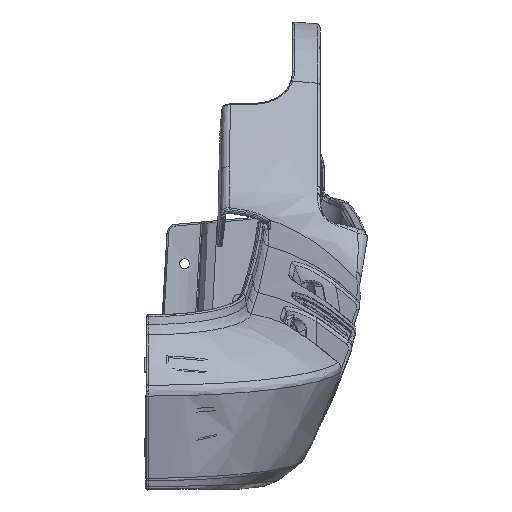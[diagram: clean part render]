
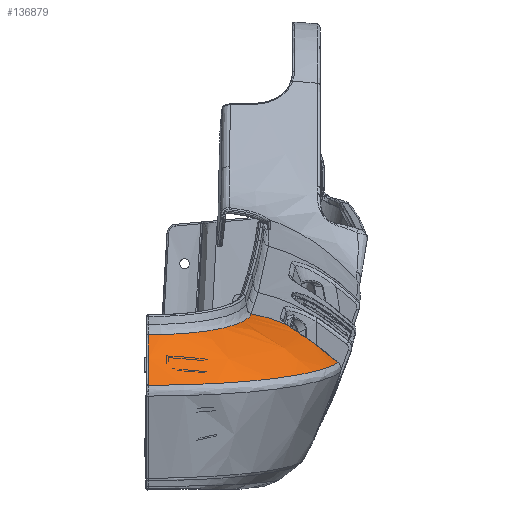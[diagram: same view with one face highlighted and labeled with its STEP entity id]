
A CAD part, left-side view. The second image highlights one B-rep face of the part: STEP entity #136879.
In plain terms, the highlighted free-form (B-spline) face has degree [3, 5] with [4, 6] control points.
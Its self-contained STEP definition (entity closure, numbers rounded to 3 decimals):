
#116766=CARTESIAN_POINT('Vertex',(-468.31,-934.177,493.002)) ;
#116770=CARTESIAN_POINT('Control Point',(-468.31,-934.177,493.002)) ;
#116771=CARTESIAN_POINT('Control Point',(-468.172,-938.765,492.11)) ;
#116772=CARTESIAN_POINT('Control Point',(-467.986,-943.249,490.912)) ;
#116773=CARTESIAN_POINT('Control Point',(-467.751,-947.608,489.403)) ;
#116774=CARTESIAN_POINT('Control Point',(-467.47,-951.842,487.593)) ;
#116775=CARTESIAN_POINT('Vertex',(-467.47,-951.842,487.593)) ;
#117971=CARTESIAN_POINT('Vertex',(-554.511,-882.237,457.334)) ;
#117981=CARTESIAN_POINT('Vertex',(-554.734,-882.235,456.976)) ;
#117985=CARTESIAN_POINT('Control Point',(-554.511,-882.237,457.334)) ;
#117986=CARTESIAN_POINT('Control Point',(-554.556,-882.237,457.261)) ;
#117987=CARTESIAN_POINT('Control Point',(-554.6,-882.237,457.191)) ;
#117988=CARTESIAN_POINT('Control Point',(-554.645,-882.237,457.119)) ;
#117989=CARTESIAN_POINT('Control Point',(-554.69,-882.236,457.048)) ;
#117990=CARTESIAN_POINT('Control Point',(-554.734,-882.235,456.976)) ;
#118213=CARTESIAN_POINT('Vertex',(-474.317,-977.803,468.486)) ;
#118217=CARTESIAN_POINT('Control Point',(-554.734,-882.235,456.976)) ;
#118218=CARTESIAN_POINT('Control Point',(-553.138,-912.39,456.994)) ;
#118219=CARTESIAN_POINT('Control Point',(-542.037,-938.59,458.565)) ;
#118220=CARTESIAN_POINT('Control Point',(-523.694,-959.269,461.278)) ;
#118221=CARTESIAN_POINT('Control Point',(-500.367,-972.862,464.722)) ;
#118222=CARTESIAN_POINT('Control Point',(-474.317,-977.803,468.486)) ;
#136783=CARTESIAN_POINT('Control Point',(-535.237,-880.893,482.474)) ;
#136784=CARTESIAN_POINT('Control Point',(-539.764,-880.893,477.893)) ;
#136785=CARTESIAN_POINT('Control Point',(-543.922,-880.893,472.949)) ;
#136786=CARTESIAN_POINT('Control Point',(-547.78,-880.893,467.781)) ;
#136787=CARTESIAN_POINT('Control Point',(-551.393,-880.893,462.443)) ;
#136788=CARTESIAN_POINT('Control Point',(-554.798,-880.893,456.977)) ;
#136789=CARTESIAN_POINT('Control Point',(-533.823,-915.058,482.423)) ;
#136790=CARTESIAN_POINT('Control Point',(-537.78,-919.489,478.227)) ;
#136791=CARTESIAN_POINT('Control Point',(-541.582,-923.855,473.585)) ;
#136792=CARTESIAN_POINT('Control Point',(-545.344,-927.982,468.42)) ;
#136793=CARTESIAN_POINT('Control Point',(-548.999,-931.856,462.823)) ;
#136794=CARTESIAN_POINT('Control Point',(-552.53,-935.501,456.908)) ;
#136795=CARTESIAN_POINT('Control Point',(-501.567,-932.334,487.736)) ;
#136796=CARTESIAN_POINT('Control Point',(-504.457,-941.691,485.47)) ;
#136797=CARTESIAN_POINT('Control Point',(-507.044,-951.128,481.959)) ;
#136798=CARTESIAN_POINT('Control Point',(-509.262,-959.99,476.477)) ;
#136799=CARTESIAN_POINT('Control Point',(-511.201,-967.727,469.979)) ;
#136800=CARTESIAN_POINT('Control Point',(-512.972,-974.852,462.94)) ;
#136801=CARTESIAN_POINT('Control Point',(-468.31,-934.177,493.002)) ;
#136802=CARTESIAN_POINT('Control Point',(-468.006,-944.237,491.045)) ;
#136803=CARTESIAN_POINT('Control Point',(-467.482,-954.083,487.668)) ;
#136804=CARTESIAN_POINT('Control Point',(-466.711,-963.18,482.701)) ;
#136805=CARTESIAN_POINT('Control Point',(-465.77,-971.505,476.645)) ;
#136806=CARTESIAN_POINT('Control Point',(-464.717,-979.136,469.868)) ;
#136808=CARTESIAN_POINT('Control Point',(-554.511,-882.237,457.334)) ;
#136809=CARTESIAN_POINT('Control Point',(-553.873,-882.238,458.353)) ;
#136810=CARTESIAN_POINT('Control Point',(-553.227,-882.238,459.369)) ;
#136811=CARTESIAN_POINT('Control Point',(-552.568,-882.239,460.389)) ;
#136812=CARTESIAN_POINT('Control Point',(-551.546,-882.24,461.944)) ;
#136813=CARTESIAN_POINT('Control Point',(-550.508,-882.241,463.48)) ;
#136814=CARTESIAN_POINT('Control Point',(-550.144,-882.242,464.013)) ;
#136815=CARTESIAN_POINT('Control Point',(-548.68,-882.243,466.14)) ;
#136816=CARTESIAN_POINT('Control Point',(-547.178,-882.243,468.235)) ;
#136817=CARTESIAN_POINT('Control Point',(-546.028,-882.244,469.79)) ;
#136818=CARTESIAN_POINT('Control Point',(-543.288,-882.244,473.373)) ;
#136819=CARTESIAN_POINT('Control Point',(-540.403,-882.245,476.841)) ;
#136820=CARTESIAN_POINT('Control Point',(-538.712,-882.247,478.77)) ;
#136821=CARTESIAN_POINT('Control Point',(-536.979,-882.25,480.64)) ;
#136822=CARTESIAN_POINT('Control Point',(-535.164,-882.251,482.475)) ;
#136823=CARTESIAN_POINT('Vertex',(-535.164,-882.251,482.475)) ;
#136827=CARTESIAN_POINT('Control Point',(-474.666,-964.318,479.159)) ;
#136828=CARTESIAN_POINT('Control Point',(-474.657,-965.536,478.345)) ;
#136829=CARTESIAN_POINT('Control Point',(-474.64,-966.742,477.507)) ;
#136830=CARTESIAN_POINT('Control Point',(-474.622,-967.935,476.645)) ;
#136831=CARTESIAN_POINT('Control Point',(-474.591,-969.53,475.448)) ;
#136832=CARTESIAN_POINT('Control Point',(-474.551,-971.107,474.208)) ;
#136833=CARTESIAN_POINT('Control Point',(-474.541,-971.484,473.909)) ;
#136834=CARTESIAN_POINT('Control Point',(-474.507,-972.721,472.913)) ;
#136835=CARTESIAN_POINT('Control Point',(-474.468,-973.947,471.892)) ;
#136836=CARTESIAN_POINT('Control Point',(-474.441,-974.73,471.225)) ;
#136837=CARTESIAN_POINT('Control Point',(-474.406,-975.649,470.424)) ;
#136838=CARTESIAN_POINT('Control Point',(-474.369,-976.561,469.61)) ;
#136839=CARTESIAN_POINT('Control Point',(-474.365,-976.67,469.513)) ;
#136840=CARTESIAN_POINT('Control Point',(-474.356,-976.888,469.318)) ;
#136841=CARTESIAN_POINT('Control Point',(-474.347,-977.105,469.122)) ;
#136842=CARTESIAN_POINT('Control Point',(-474.342,-977.214,469.023)) ;
#136843=CARTESIAN_POINT('Control Point',(-474.333,-977.397,468.857)) ;
#136844=CARTESIAN_POINT('Control Point',(-474.325,-977.58,468.691)) ;
#136845=CARTESIAN_POINT('Control Point',(-474.323,-977.654,468.622)) ;
#136846=CARTESIAN_POINT('Control Point',(-474.32,-977.729,468.554)) ;
#136847=CARTESIAN_POINT('Control Point',(-474.317,-977.803,468.486)) ;
#136848=CARTESIAN_POINT('Vertex',(-474.666,-964.318,479.159)) ;
#136852=CARTESIAN_POINT('Control Point',(-467.47,-951.842,487.593)) ;
#136853=CARTESIAN_POINT('Control Point',(-468.767,-952.706,486.979)) ;
#136854=CARTESIAN_POINT('Control Point',(-469.96,-953.706,486.294)) ;
#136855=CARTESIAN_POINT('Control Point',(-471.027,-954.849,485.531)) ;
#136856=CARTESIAN_POINT('Control Point',(-472.832,-957.283,483.903)) ;
#136857=CARTESIAN_POINT('Control Point',(-474.032,-960.034,482.049)) ;
#136858=CARTESIAN_POINT('Control Point',(-474.455,-961.428,481.102)) ;
#136859=CARTESIAN_POINT('Control Point',(-474.678,-962.854,480.137)) ;
#136860=CARTESIAN_POINT('Control Point',(-474.666,-964.318,479.159)) ;
#136863=CARTESIAN_POINT('Control Point',(-535.164,-882.251,482.475)) ;
#136864=CARTESIAN_POINT('Control Point',(-533.843,-902.21,482.528)) ;
#136865=CARTESIAN_POINT('Control Point',(-523.631,-917.243,484.128)) ;
#136866=CARTESIAN_POINT('Control Point',(-507.394,-927.488,486.753)) ;
#136867=CARTESIAN_POINT('Control Point',(-487.998,-933.086,489.884)) ;
#136868=CARTESIAN_POINT('Control Point',(-468.31,-934.177,493.002)) ;
#136871=ORIENTED_EDGE('',*,*,#136825,.F.) ;
#136872=ORIENTED_EDGE('',*,*,#117991,.T.) ;
#136873=ORIENTED_EDGE('',*,*,#118223,.T.) ;
#136874=ORIENTED_EDGE('',*,*,#136850,.F.) ;
#136875=ORIENTED_EDGE('',*,*,#136861,.F.) ;
#136876=ORIENTED_EDGE('',*,*,#116777,.F.) ;
#136877=ORIENTED_EDGE('',*,*,#136869,.F.) ;
#136879=ADVANCED_FACE('\X2\5DE662A4677F\X0\-\X2\67007EC87248\X0\',(#136878),#136782,.F.) ;
#116769=B_SPLINE_CURVE_WITH_KNOTS('',4,(#116770,#116771,#116772,#116773,#116774),.UNSPECIFIED.,.F.,.U.,(5,5),(0.,27.059),.UNSPECIFIED.) ;
#117984=B_SPLINE_CURVE_WITH_KNOTS('',5,(#117985,#117986,#117987,#117988,#117989,#117990),.UNSPECIFIED.,.F.,.U.,(6,6),(0.,0.695),.UNSPECIFIED.) ;
#118216=B_SPLINE_CURVE_WITH_KNOTS('',5,(#118217,#118218,#118219,#118220,#118221,#118222),.UNSPECIFIED.,.F.,.U.,(6,6),(1.274,144.689),.UNSPECIFIED.) ;
#136807=B_SPLINE_CURVE_WITH_KNOTS('',5,(#136808,#136809,#136810,#136811,#136812,#136813,#136814,#136815,#136816,#136817,#136818,#136819,#136820,#136821,#136822),.UNSPECIFIED.,.F.,.U.,(6,3,3,3,6),(0.704,10.748,16.127,32.274,53.807),.UNSPECIFIED.) ;
#136826=B_SPLINE_CURVE_WITH_KNOTS('',5,(#136827,#136828,#136829,#136830,#136831,#136832,#136833,#136834,#136835,#136836,#136837,#136838,#136839,#136840,#136841,#136842,#136843,#136844,#136845,#136846,#136847),.UNSPECIFIED.,.F.,.U.,(6,3,3,3,3,3,6),(0.,9.783,13.228,20.218,21.166,22.115,22.768),.UNSPECIFIED.) ;
#136851=B_SPLINE_CURVE_WITH_KNOTS('',5,(#136852,#136853,#136854,#136855,#136856,#136857,#136858,#136859,#136860),.UNSPECIFIED.,.F.,.U.,(6,3,6),(0.,12.29,23.874),.UNSPECIFIED.) ;
#136862=B_SPLINE_CURVE_WITH_KNOTS('',5,(#136863,#136864,#136865,#136866,#136867,#136868),.UNSPECIFIED.,.F.,.U.,(6,6),(1.773,132.948),.UNSPECIFIED.) ;
#136782=B_SPLINE_SURFACE_WITH_KNOTS('',3,5,((#136783,#136784,#136785,#136786,#136787,#136788),(#136789,#136790,#136791,#136792,#136793,#136794),(#136795,#136796,#136797,#136798,#136799,#136800),(#136801,#136802,#136803,#136804,#136805,#136806)),.UNSPECIFIED.,.F.,.F.,.U.,(4,4),(6,6),(0.,132.948),(0.,43.32),.UNSPECIFIED.) ;
#116777=EDGE_CURVE('',#116767,#116776,#116769,.T.) ;
#117991=EDGE_CURVE('',#117972,#117982,#117984,.T.) ;
#118223=EDGE_CURVE('',#117982,#118214,#118216,.T.) ;
#136825=EDGE_CURVE('',#117972,#136824,#136807,.T.) ;
#136850=EDGE_CURVE('',#136849,#118214,#136826,.T.) ;
#136861=EDGE_CURVE('',#116776,#136849,#136851,.T.) ;
#136869=EDGE_CURVE('',#136824,#116767,#136862,.T.) ;
#136870=EDGE_LOOP('',(#136871,#136872,#136873,#136874,#136875,#136876,#136877)) ;
#136878=FACE_OUTER_BOUND('',#136870,.T.) ;
#116767=VERTEX_POINT('',#116766) ;
#116776=VERTEX_POINT('',#116775) ;
#117972=VERTEX_POINT('',#117971) ;
#117982=VERTEX_POINT('',#117981) ;
#118214=VERTEX_POINT('',#118213) ;
#136824=VERTEX_POINT('',#136823) ;
#136849=VERTEX_POINT('',#136848) ;
